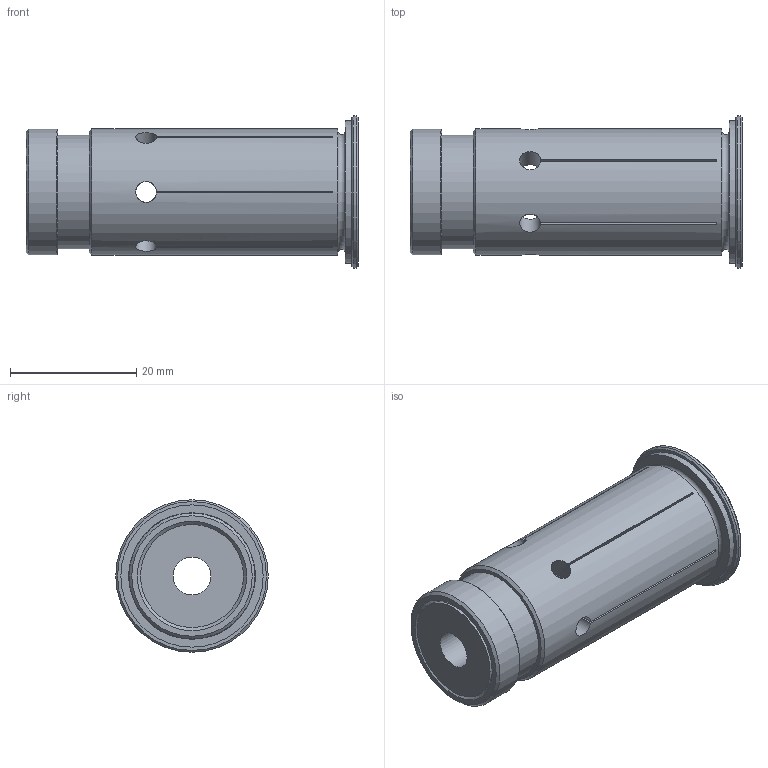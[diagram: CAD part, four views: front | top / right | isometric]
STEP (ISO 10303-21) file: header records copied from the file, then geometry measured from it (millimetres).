
FILE_DESCRIPTION( ( 'STEP AP203' ), '1' );
FILE_NAME( 'p:/temp/worker_3/3660_4028/wkb82550998_no0/STEP/SCHUNK-0207927_GZB-S_20-10_kuehlmitteldicht_2_03.stp', ' ', ( ' ' ), ( ' ' ), 'PSStep 15.0.47', 'PARTsolutions', ' ' );
FILE_SCHEMA( ( 'CONFIG_CONTROL_DESIGN' ) );
Length unit declared in the file: millimetre
Products named in the file (1): _SCHUNK-0207927 GZB-S 20-10 kuehlmitteldicht
Bounding box: 52.5 x 24.1 x 24.1 mm (x, y, z)
Volume: 10172.2 mm3; surface area: 8126.4 mm2
Topology: 1 solids, 1 shells, 75 faces, 221 edges, 143 vertices
Faces by surface type: plane 27, cylinder 22, cone 19, sphere 6, torus 1
Full cylindrical faces by diameter (mm): 6 x1, 10 x1, 12 x1, 16.3 x2, 18 x1, 19.9 x1, 20 x1, 22.5 x1, 24.1 x1
Entity records: 3026 total; most frequent: CARTESIAN_POINT 1140, ORIENTED_EDGE 374, DIRECTION 370, EDGE_CURVE 187, AXIS2_PLACEMENT_3D 149, VERTEX_POINT 133, EDGE_LOOP 108, FACE_OUTER_BOUND 86
